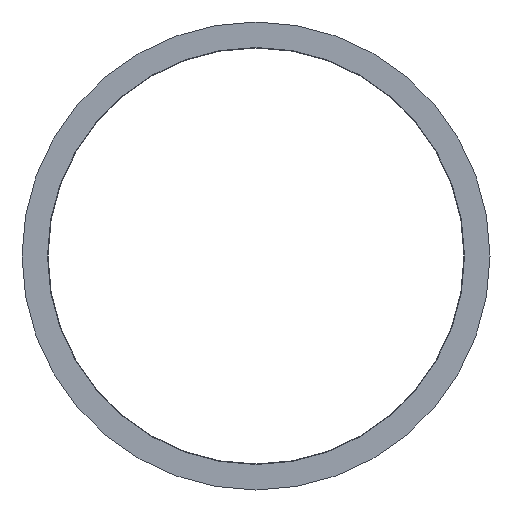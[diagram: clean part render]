
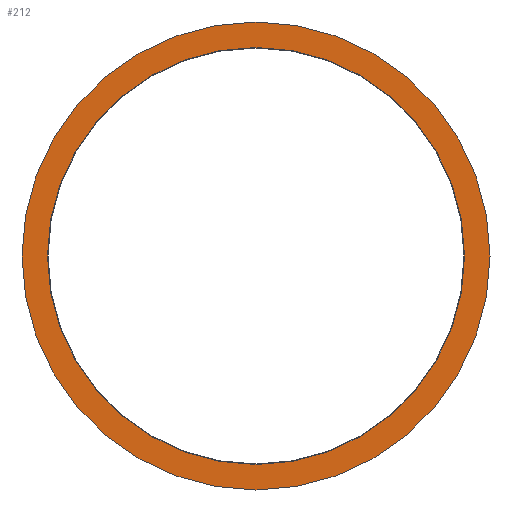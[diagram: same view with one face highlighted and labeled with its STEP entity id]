
A CAD part, left-side view. The second image highlights one B-rep face of the part: STEP entity #212.
In plain terms, the highlighted planar face has unit normal (-1, 0, 0).
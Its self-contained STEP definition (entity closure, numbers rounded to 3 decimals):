
#3 = CIRCLE ( 'NONE', #177, 20.05 ) ;
#5 = CARTESIAN_POINT ( 'NONE',  ( -4.285, -0.025, 22.5 ) ) ;
#8 = CIRCLE ( 'NONE', #19, 22.5 ) ;
#19 = AXIS2_PLACEMENT_3D ( 'NONE', #285, #79, #255 ) ;
#29 = CIRCLE ( 'NONE', #344, 22.5 ) ;
#47 = AXIS2_PLACEMENT_3D ( 'NONE', #317, #278, #161 ) ;
#51 = CARTESIAN_POINT ( 'NONE',  ( -4.285, -0.025, 20.05 ) ) ;
#78 = DIRECTION ( 'NONE',  ( 0., 0., 1. ) ) ;
#79 = DIRECTION ( 'NONE',  ( -1., 0., 0. ) ) ;
#83 = EDGE_CURVE ( 'NONE', #106, #322, #3, .T. ) ;
#96 = PLANE ( 'NONE',  #117 ) ;
#100 = DIRECTION ( 'NONE',  ( -1., 0., 0. ) ) ;
#102 = EDGE_CURVE ( 'NONE', #231, #265, #29, .T. ) ;
#106 = VERTEX_POINT ( 'NONE', #209 ) ;
#117 = AXIS2_PLACEMENT_3D ( 'NONE', #404, #167, #379 ) ;
#133 = FACE_BOUND ( 'NONE', #163, .T. ) ;
#142 = CARTESIAN_POINT ( 'NONE',  ( -4.285, -0.025, 0. ) ) ;
#161 = DIRECTION ( 'NONE',  ( 0., 0., 1. ) ) ;
#163 = EDGE_LOOP ( 'NONE', ( #309, #350 ) ) ;
#167 = DIRECTION ( 'NONE',  ( 1., 0., 0. ) ) ;
#177 = AXIS2_PLACEMENT_3D ( 'NONE', #183, #100, #78 ) ;
#183 = CARTESIAN_POINT ( 'NONE',  ( -4.285, -0.025, 0. ) ) ;
#209 = CARTESIAN_POINT ( 'NONE',  ( -4.285, -0.025, -20.05 ) ) ;
#212 = ADVANCED_FACE ( 'NONE', ( #133, #283 ), #96, .F. ) ;
#231 = VERTEX_POINT ( 'NONE', #5 ) ;
#244 = EDGE_CURVE ( 'NONE', #322, #106, #339, .T. ) ;
#255 = DIRECTION ( 'NONE',  ( 0., 0., 1. ) ) ;
#265 = VERTEX_POINT ( 'NONE', #354 ) ;
#278 = DIRECTION ( 'NONE',  ( -1., 0., 0. ) ) ;
#283 = FACE_OUTER_BOUND ( 'NONE', #398, .T. ) ;
#285 = CARTESIAN_POINT ( 'NONE',  ( -4.285, -0.025, 0. ) ) ;
#289 = ORIENTED_EDGE ( 'NONE', *, *, #102, .T. ) ;
#304 = ORIENTED_EDGE ( 'NONE', *, *, #363, .T. ) ;
#309 = ORIENTED_EDGE ( 'NONE', *, *, #83, .F. ) ;
#317 = CARTESIAN_POINT ( 'NONE',  ( -4.285, -0.025, 0. ) ) ;
#322 = VERTEX_POINT ( 'NONE', #51 ) ;
#329 = DIRECTION ( 'NONE',  ( 0., 0., 1. ) ) ;
#338 = DIRECTION ( 'NONE',  ( -1., 0., 0. ) ) ;
#339 = CIRCLE ( 'NONE', #47, 20.05 ) ;
#344 = AXIS2_PLACEMENT_3D ( 'NONE', #142, #338, #329 ) ;
#350 = ORIENTED_EDGE ( 'NONE', *, *, #244, .F. ) ;
#354 = CARTESIAN_POINT ( 'NONE',  ( -4.285, -0.025, -22.5 ) ) ;
#363 = EDGE_CURVE ( 'NONE', #265, #231, #8, .T. ) ;
#379 = DIRECTION ( 'NONE',  ( 0., 0., -1. ) ) ;
#398 = EDGE_LOOP ( 'NONE', ( #289, #304 ) ) ;
#404 = CARTESIAN_POINT ( 'NONE',  ( -4.285, -0.025, 0. ) ) ;
